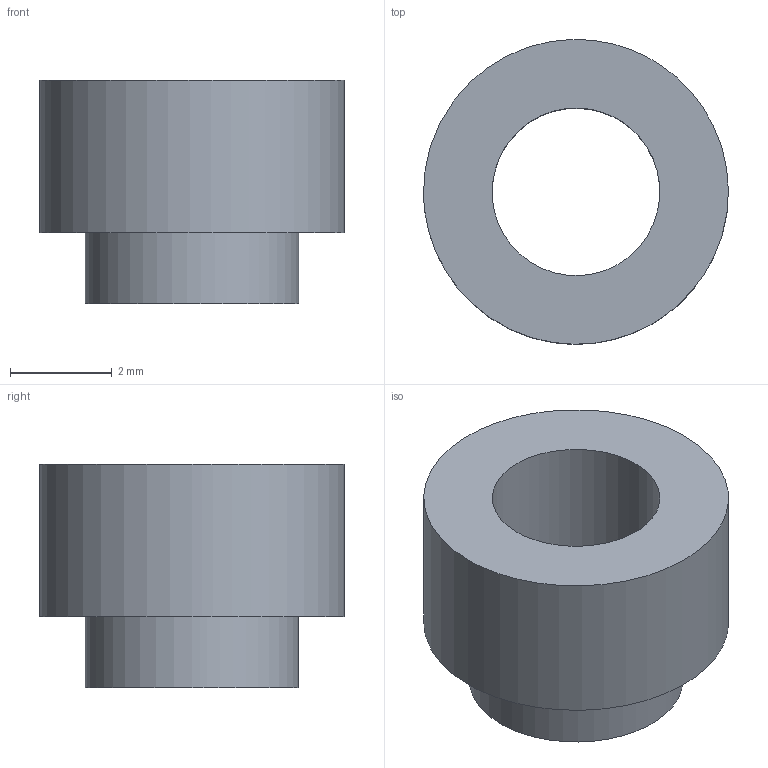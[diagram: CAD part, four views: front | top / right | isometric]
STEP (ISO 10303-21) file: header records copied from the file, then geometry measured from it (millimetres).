
FILE_DESCRIPTION(('FreeCAD Model'),'2;1');
FILE_NAME('Open CASCADE Shape Model','2026-03-20T17:23:09',('Author'),( ''),'Open CASCADE STEP processor 7.8','FreeCAD','Unknown');
FILE_SCHEMA(('AP242_MANAGED_MODEL_BASED_3D_ENGINEERING_MIM_LF. {1 0 10303 442 1 1 4 }'));
Length unit declared in the file: millimetre
Products named in the file (1): 1_transformed
Bounding box: 6 x 6 x 4.4 mm (x, y, z)
Volume: 67.1 mm3; surface area: 160.4 mm2
Topology: 1 solids, 1 shells, 6 faces, 9 edges, 6 vertices
Faces by surface type: bspline 6
Entity records: 201 total; most frequent: CARTESIAN_POINT 109, ORIENTED_EDGE 18, FACE_BOUND 9, EDGE_LOOP 9, EDGE_CURVE 9, ADVANCED_FACE 6, VERTEX_POINT 6, B_SPLINE_SURFACE_WITH_KNOTS 3
